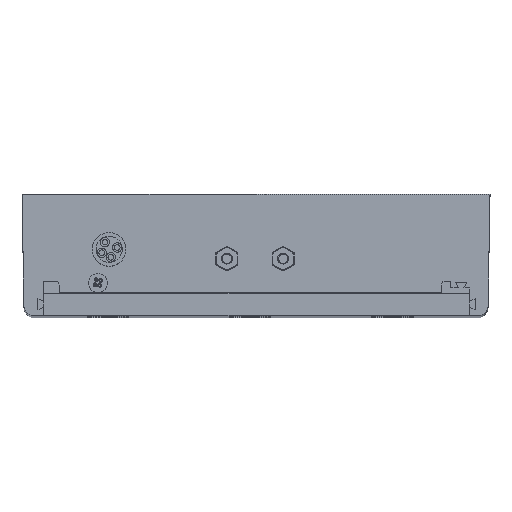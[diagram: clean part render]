
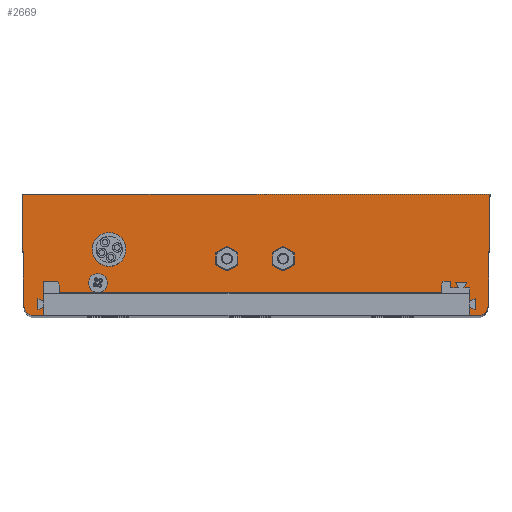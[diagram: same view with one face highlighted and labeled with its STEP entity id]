
A CAD part, top view. The second image highlights one B-rep face of the part: STEP entity #2669.
In plain terms, the highlighted planar face has unit normal (0, 0, 1).
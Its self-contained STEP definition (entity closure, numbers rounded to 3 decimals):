
#13 = EDGE_CURVE ( 'NONE', #10767, #2616, #13588, .T. ) ;
#105 = VERTEX_POINT ( 'NONE', #4772 ) ;
#171 = VECTOR ( 'NONE', #874, 1000. ) ;
#273 = EDGE_CURVE ( 'NONE', #6143, #4792, #663, .T. ) ;
#373 = EDGE_CURVE ( 'NONE', #13513, #105, #7206, .T. ) ;
#663 = CIRCLE ( 'NONE', #12906, 3. ) ;
#681 = CARTESIAN_POINT ( 'NONE',  ( -25.735, -8.787, 0. ) ) ;
#805 = LINE ( 'NONE', #681, #10860 ) ;
#813 = DIRECTION ( 'NONE',  ( 0., 0., 1. ) ) ;
#874 = DIRECTION ( 'NONE',  ( 0.017, 1., 0. ) ) ;
#921 = CARTESIAN_POINT ( 'NONE',  ( 98.608, -1.721, 0. ) ) ;
#1029 = CIRCLE ( 'NONE', #8252, 2.95 ) ;
#1161 = ORIENTED_EDGE ( 'NONE', *, *, #13, .T. ) ;
#1294 = DIRECTION ( 'NONE',  ( 1., 0., 0. ) ) ;
#1334 = DIRECTION ( 'NONE',  ( -1., 0., 0. ) ) ;
#1369 = EDGE_CURVE ( 'NONE', #4987, #7623, #7715, .T. ) ;
#1412 = AXIS2_PLACEMENT_3D ( 'NONE', #9214, #4838, #13416 ) ;
#1532 = AXIS2_PLACEMENT_3D ( 'NONE', #12613, #10458, #7199 ) ;
#1981 = ORIENTED_EDGE ( 'NONE', *, *, #12213, .F. ) ;
#2015 = DIRECTION ( 'NONE',  ( 0., 0., 1. ) ) ;
#2178 = CARTESIAN_POINT ( 'NONE',  ( 93.475, -8.787, 0. ) ) ;
#2316 = CARTESIAN_POINT ( 'NONE',  ( -20.425, -8.787, 0. ) ) ;
#2355 = CARTESIAN_POINT ( 'NONE',  ( -20.425, -8.787, 0. ) ) ;
#2463 = ORIENTED_EDGE ( 'NONE', *, *, #9102, .F. ) ;
#2609 = VERTEX_POINT ( 'NONE', #5692 ) ;
#2616 = VERTEX_POINT ( 'NONE', #4928 ) ;
#2653 = FACE_BOUND ( 'NONE', #10103, .T. ) ;
#2669 = ADVANCED_FACE ( 'NONE', ( #2653, #6153, #5821 ), #2836, .T. ) ;
#2836 = PLANE ( 'NONE',  #1412 ) ;
#2894 = VERTEX_POINT ( 'NONE', #2178 ) ;
#3307 = EDGE_LOOP ( 'NONE', ( #13310, #7082, #12953, #9158, #1981, #13716, #11210, #1161, #11814, #2463 ) ) ;
#3334 = DIRECTION ( 'NONE',  ( 0., 0., 1. ) ) ;
#3385 = VECTOR ( 'NONE', #9148, 1000. ) ;
#3486 = CARTESIAN_POINT ( 'NONE',  ( 43.61, 0.563, 0. ) ) ;
#3556 = LINE ( 'NONE', #13396, #3385 ) ;
#3763 = CARTESIAN_POINT ( 'NONE',  ( 96.508, -14.637, 0. ) ) ;
#3843 = ORIENTED_EDGE ( 'NONE', *, *, #1369, .F. ) ;
#3935 = VERTEX_POINT ( 'NONE', #3763 ) ;
#3946 = CARTESIAN_POINT ( 'NONE',  ( -25.681, -11.89, 0. ) ) ;
#4009 = DIRECTION ( 'NONE',  ( -0.017, 1., 0. ) ) ;
#4170 = DIRECTION ( 'NONE',  ( 1., 0., 0. ) ) ;
#4429 = CARTESIAN_POINT ( 'NONE',  ( 98.431, -11.89, 0. ) ) ;
#4493 = AXIS2_PLACEMENT_3D ( 'NONE', #8429, #2015, #4170 ) ;
#4515 = DIRECTION ( 'NONE',  ( 1., 0., 0. ) ) ;
#4634 = EDGE_CURVE ( 'NONE', #7623, #4987, #12468, .T. ) ;
#4772 = CARTESIAN_POINT ( 'NONE',  ( 25.66, 0.563, 0. ) ) ;
#4792 = VERTEX_POINT ( 'NONE', #8279 ) ;
#4838 = DIRECTION ( 'NONE',  ( 0., 0., 1. ) ) ;
#4928 = CARTESIAN_POINT ( 'NONE',  ( 98.948, 17.763, 0. ) ) ;
#4987 = VERTEX_POINT ( 'NONE', #7720 ) ;
#5008 = VECTOR ( 'NONE', #8344, 1000. ) ;
#5276 = CARTESIAN_POINT ( 'NONE',  ( 0., -14.637, 0. ) ) ;
#5551 = VECTOR ( 'NONE', #1334, 1000. ) ;
#5692 = CARTESIAN_POINT ( 'NONE',  ( 93.475, -14.637, 0. ) ) ;
#5707 = EDGE_CURVE ( 'NONE', #3935, #10767, #10408, .T. ) ;
#5821 = FACE_OUTER_BOUND ( 'NONE', #3307, .T. ) ;
#5840 = CARTESIAN_POINT ( 'NONE',  ( -20.425, -14.637, 0. ) ) ;
#6143 = VERTEX_POINT ( 'NONE', #3946 ) ;
#6153 = FACE_BOUND ( 'NONE', #6673, .T. ) ;
#6568 = VECTOR ( 'NONE', #11797, 1000. ) ;
#6673 = EDGE_LOOP ( 'NONE', ( #13656, #3843 ) ) ;
#6915 = VECTOR ( 'NONE', #9238, 1000. ) ;
#6917 = EDGE_CURVE ( 'NONE', #7060, #7594, #8086, .T. ) ;
#7060 = VERTEX_POINT ( 'NONE', #2355 ) ;
#7082 = ORIENTED_EDGE ( 'NONE', *, *, #7620, .T. ) ;
#7118 = DIRECTION ( 'NONE',  ( 1., 0., 0. ) ) ;
#7199 = DIRECTION ( 'NONE',  ( 1., 0., 0. ) ) ;
#7206 = CIRCLE ( 'NONE', #4493, 2.95 ) ;
#7322 = AXIS2_PLACEMENT_3D ( 'NONE', #10968, #9790, #1294 ) ;
#7594 = VERTEX_POINT ( 'NONE', #5840 ) ;
#7620 = EDGE_CURVE ( 'NONE', #4792, #7594, #12568, .T. ) ;
#7623 = VERTEX_POINT ( 'NONE', #13340 ) ;
#7708 = EDGE_CURVE ( 'NONE', #105, #13513, #1029, .T. ) ;
#7715 = CIRCLE ( 'NONE', #12061, 2.95 ) ;
#7720 = CARTESIAN_POINT ( 'NONE',  ( 40.66, 0.563, 0. ) ) ;
#7777 = ORIENTED_EDGE ( 'NONE', *, *, #373, .F. ) ;
#8069 = LINE ( 'NONE', #2316, #5551 ) ;
#8086 = LINE ( 'NONE', #8288, #6915 ) ;
#8152 = CARTESIAN_POINT ( 'NONE',  ( -22.682, -11.837, 0. ) ) ;
#8252 = AXIS2_PLACEMENT_3D ( 'NONE', #11534, #813, #8311 ) ;
#8279 = CARTESIAN_POINT ( 'NONE',  ( -23.759, -14.637, 0. ) ) ;
#8288 = CARTESIAN_POINT ( 'NONE',  ( -20.425, -15.137, 0. ) ) ;
#8311 = DIRECTION ( 'NONE',  ( 1., 0., 0. ) ) ;
#8344 = DIRECTION ( 'NONE',  ( 0., 1., 0. ) ) ;
#8429 = CARTESIAN_POINT ( 'NONE',  ( 28.61, 0.563, 0. ) ) ;
#8563 = CARTESIAN_POINT ( 'NONE',  ( 31.56, 0.563, 0. ) ) ;
#9041 = CARTESIAN_POINT ( 'NONE',  ( 0., -14.637, 0. ) ) ;
#9102 = EDGE_CURVE ( 'NONE', #6143, #10463, #805, .T. ) ;
#9148 = DIRECTION ( 'NONE',  ( -1., 0., 0. ) ) ;
#9158 = ORIENTED_EDGE ( 'NONE', *, *, #10567, .F. ) ;
#9214 = CARTESIAN_POINT ( 'NONE',  ( 0., 0., 0. ) ) ;
#9238 = DIRECTION ( 'NONE',  ( 0., -1., 0. ) ) ;
#9729 = VECTOR ( 'NONE', #11181, 1000. ) ;
#9790 = DIRECTION ( 'NONE',  ( 0., 0., 1. ) ) ;
#10103 = EDGE_LOOP ( 'NONE', ( #7777, #11444 ) ) ;
#10387 = EDGE_CURVE ( 'NONE', #2609, #3935, #10918, .T. ) ;
#10408 = CIRCLE ( 'NONE', #1532, 3. ) ;
#10458 = DIRECTION ( 'NONE',  ( 0., 0., 1. ) ) ;
#10463 = VERTEX_POINT ( 'NONE', #12819 ) ;
#10567 = EDGE_CURVE ( 'NONE', #2894, #7060, #8069, .T. ) ;
#10696 = LINE ( 'NONE', #13823, #5008 ) ;
#10767 = VERTEX_POINT ( 'NONE', #4429 ) ;
#10860 = VECTOR ( 'NONE', #4009, 1000. ) ;
#10918 = LINE ( 'NONE', #5276, #6568 ) ;
#10968 = CARTESIAN_POINT ( 'NONE',  ( 43.61, 0.563, 0. ) ) ;
#11141 = EDGE_CURVE ( 'NONE', #2616, #10463, #3556, .T. ) ;
#11181 = DIRECTION ( 'NONE',  ( 1., 0., 0. ) ) ;
#11210 = ORIENTED_EDGE ( 'NONE', *, *, #5707, .T. ) ;
#11444 = ORIENTED_EDGE ( 'NONE', *, *, #7708, .F. ) ;
#11534 = CARTESIAN_POINT ( 'NONE',  ( 28.61, 0.563, 0. ) ) ;
#11797 = DIRECTION ( 'NONE',  ( 1., 0., 0. ) ) ;
#11814 = ORIENTED_EDGE ( 'NONE', *, *, #11141, .T. ) ;
#12061 = AXIS2_PLACEMENT_3D ( 'NONE', #3486, #3334, #4515 ) ;
#12213 = EDGE_CURVE ( 'NONE', #2609, #2894, #10696, .T. ) ;
#12468 = CIRCLE ( 'NONE', #7322, 2.95 ) ;
#12568 = LINE ( 'NONE', #9041, #9729 ) ;
#12613 = CARTESIAN_POINT ( 'NONE',  ( 95.431, -11.837, 0. ) ) ;
#12819 = CARTESIAN_POINT ( 'NONE',  ( -26.199, 17.763, 0. ) ) ;
#12906 = AXIS2_PLACEMENT_3D ( 'NONE', #8152, #13667, #7118 ) ;
#12953 = ORIENTED_EDGE ( 'NONE', *, *, #6917, .F. ) ;
#13310 = ORIENTED_EDGE ( 'NONE', *, *, #273, .T. ) ;
#13340 = CARTESIAN_POINT ( 'NONE',  ( 46.56, 0.563, 0. ) ) ;
#13396 = CARTESIAN_POINT ( 'NONE',  ( -25.325, 17.763, 0. ) ) ;
#13416 = DIRECTION ( 'NONE',  ( 1., 0., 0. ) ) ;
#13513 = VERTEX_POINT ( 'NONE', #8563 ) ;
#13588 = LINE ( 'NONE', #921, #171 ) ;
#13656 = ORIENTED_EDGE ( 'NONE', *, *, #4634, .F. ) ;
#13667 = DIRECTION ( 'NONE',  ( 0., 0., 1. ) ) ;
#13716 = ORIENTED_EDGE ( 'NONE', *, *, #10387, .T. ) ;
#13823 = CARTESIAN_POINT ( 'NONE',  ( 93.475, -15.137, 0. ) ) ;
